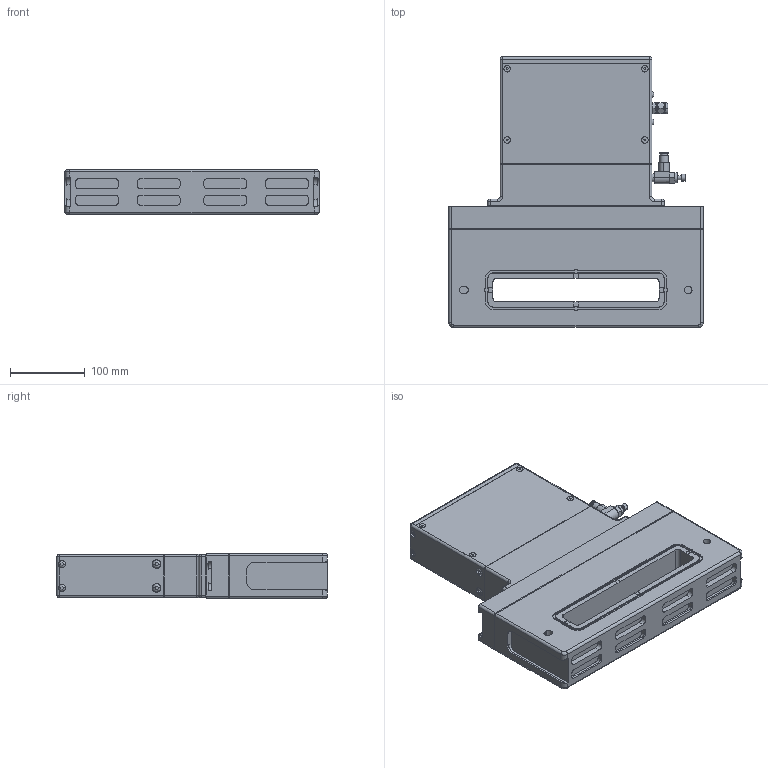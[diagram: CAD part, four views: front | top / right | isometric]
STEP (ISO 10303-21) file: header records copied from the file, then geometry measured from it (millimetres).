
FILE_DESCRIPTION((''),'2;1');
FILE_NAME('28212-0109RXK','2011-03-02T',('jd'),(''),'PRO/ENGINEER BY PARAMETRIC TECHNOLOGY CORPORATION, 2010280','PRO/ENGINEER BY PARAMETRIC TECHNOLOGY CORPORATION, 2010280','');
FILE_SCHEMA(('CONFIG_CONTROL_DESIGN'));
Length unit declared in the file: inch
Products named in the file (1): 28212-0109RXK
Bounding box: 340 x 362.2 x 59.99 mm (x, y, z)
Volume: 5113016.4 mm3; surface area: 331462.3 mm2
Topology: 1 solids, 1 shells, 934 faces, 2320 edges, 1476 vertices
Faces by surface type: plane 522, cylinder 244, cone 114, bspline 24, torus 22, sphere 8
Entity records: 29996 total; most frequent: CARTESIAN_POINT 7608, DIRECTION 4666, ORIENTED_EDGE 4640, EDGE_CURVE 2320, AXIS2_PLACEMENT_3D 1656, VERTEX_POINT 1476, VECTOR 1354, LINE 1354
